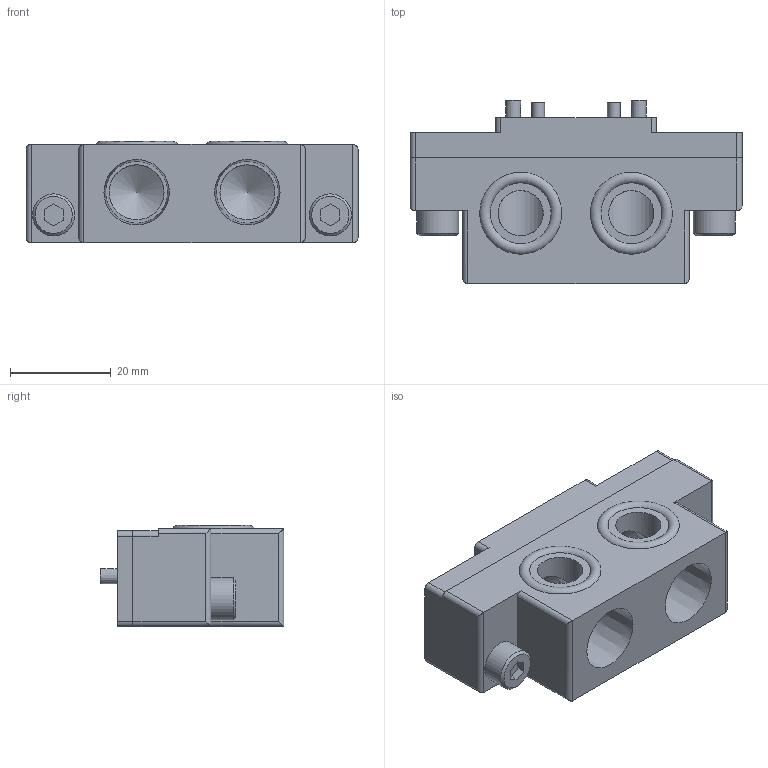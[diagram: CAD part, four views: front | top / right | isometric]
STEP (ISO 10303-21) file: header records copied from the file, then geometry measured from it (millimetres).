
FILE_DESCRIPTION(('STEP AP214'),'1');
FILE_NAME('KHB-7HS-EP82_ver1.stp','2026-04-27T02:27:26',(' '),(' '),'Spatial InterOp 3D',' ',' ');
FILE_SCHEMA(('AUTOMOTIVE_DESIGN { 1 0 10303 214 1 1 1 1 }'));
Length unit declared in the file: millimetre
Products named in the file (1): KHB-7HS-EP82_ver1
Bounding box: 66 x 36.5 x 20.1 mm (x, y, z)
Volume: 29402.4 mm3; surface area: 10844.5 mm2
Topology: 1 solids, 9 shells, 136 faces, 290 edges, 190 vertices
Faces by surface type: plane 80, cylinder 42, cone 12, torus 2
Full cylindrical faces by diameter (mm): 2.5 x4, 3.5 x2, 4 x2, 4.2 x2, 5.41 x2, 5.5 x2, 6.5 x2, 8.385 x2, 9 x2, 10.9 x2
Entity records: 4636 total; most frequent: CARTESIAN_POINT 721, DIRECTION 606, ORIENTED_EDGE 478, EDGE_CURVE 239, AXIS2_PLACEMENT_3D 232, EDGE_LOOP 200, VERTEX_POINT 179, FACE_OUTER_BOUND 160
